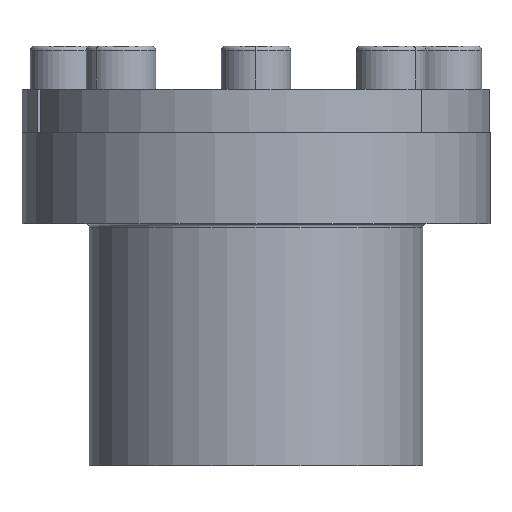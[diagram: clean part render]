
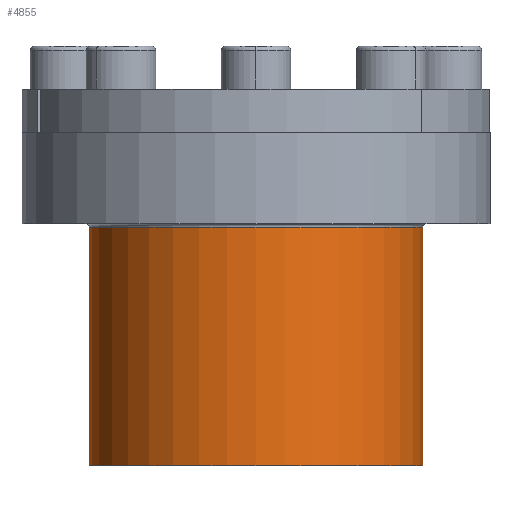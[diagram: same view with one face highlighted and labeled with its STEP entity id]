
A CAD part, front view. The second image highlights one B-rep face of the part: STEP entity #4855.
In plain terms, the highlighted cylindrical face has radius 31 mm (diameter 62 mm), a partial arc.
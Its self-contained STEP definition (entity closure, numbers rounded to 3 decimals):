
#283 = DIRECTION ( 'NONE',  ( 0., 0., -1. ) ) ;
#303 = DIRECTION ( 'NONE',  ( 0., 0., -1. ) ) ;
#620 = CARTESIAN_POINT ( 'NONE',  ( 0., 0., -11. ) ) ;
#1522 = EDGE_LOOP ( 'NONE', ( #3205, #1894, #9154, #9717 ) ) ;
#1656 = CARTESIAN_POINT ( 'NONE',  ( 0., 0., -56. ) ) ;
#1894 = ORIENTED_EDGE ( 'NONE', *, *, #2867, .T. ) ;
#2602 = LINE ( 'NONE', #12265, #10566 ) ;
#2621 = DIRECTION ( 'NONE',  ( 0., 0., -1. ) ) ;
#2661 = DIRECTION ( 'NONE',  ( -1., 0., 0. ) ) ;
#2867 = EDGE_CURVE ( 'NONE', #10443, #10759, #4585, .T. ) ;
#3205 = ORIENTED_EDGE ( 'NONE', *, *, #6202, .F. ) ;
#3327 = VERTEX_POINT ( 'NONE', #7269 ) ;
#3363 = AXIS2_PLACEMENT_3D ( 'NONE', #620, #2621, #8604 ) ;
#3519 = FACE_OUTER_BOUND ( 'NONE', #1522, .T. ) ;
#3614 = CARTESIAN_POINT ( 'NONE',  ( 31., 0., -11. ) ) ;
#3813 = CARTESIAN_POINT ( 'NONE',  ( -31., 0., -11.6 ) ) ;
#4461 = VERTEX_POINT ( 'NONE', #7031 ) ;
#4585 = CIRCLE ( 'NONE', #5922, 31. ) ;
#4737 = AXIS2_PLACEMENT_3D ( 'NONE', #1656, #8608, #2661 ) ;
#4855 = ADVANCED_FACE ( 'NONE', ( #3519 ), #7567, .T. ) ;
#5922 = AXIS2_PLACEMENT_3D ( 'NONE', #6228, #303, #7240 ) ;
#6202 = EDGE_CURVE ( 'NONE', #10443, #3327, #11959, .T. ) ;
#6228 = CARTESIAN_POINT ( 'NONE',  ( 0., 0., -11.6 ) ) ;
#7031 = CARTESIAN_POINT ( 'NONE',  ( -31., 0., -56. ) ) ;
#7135 = EDGE_CURVE ( 'NONE', #3327, #4461, #7552, .T. ) ;
#7240 = DIRECTION ( 'NONE',  ( -1., 0., 0. ) ) ;
#7269 = CARTESIAN_POINT ( 'NONE',  ( 31., 0., -56. ) ) ;
#7552 = CIRCLE ( 'NONE', #4737, 31. ) ;
#7567 = CYLINDRICAL_SURFACE ( 'NONE', #3363, 31. ) ;
#8604 = DIRECTION ( 'NONE',  ( -1., 0., 0. ) ) ;
#8608 = DIRECTION ( 'NONE',  ( 0., 0., -1. ) ) ;
#8924 = VECTOR ( 'NONE', #9600, 1000. ) ;
#9154 = ORIENTED_EDGE ( 'NONE', *, *, #10336, .T. ) ;
#9348 = CARTESIAN_POINT ( 'NONE',  ( 31., 0., -11.6 ) ) ;
#9600 = DIRECTION ( 'NONE',  ( 0., 0., -1. ) ) ;
#9717 = ORIENTED_EDGE ( 'NONE', *, *, #7135, .F. ) ;
#10336 = EDGE_CURVE ( 'NONE', #10759, #4461, #2602, .T. ) ;
#10443 = VERTEX_POINT ( 'NONE', #9348 ) ;
#10566 = VECTOR ( 'NONE', #283, 1000. ) ;
#10759 = VERTEX_POINT ( 'NONE', #3813 ) ;
#11959 = LINE ( 'NONE', #3614, #8924 ) ;
#12265 = CARTESIAN_POINT ( 'NONE',  ( -31., 0., -11. ) ) ;
